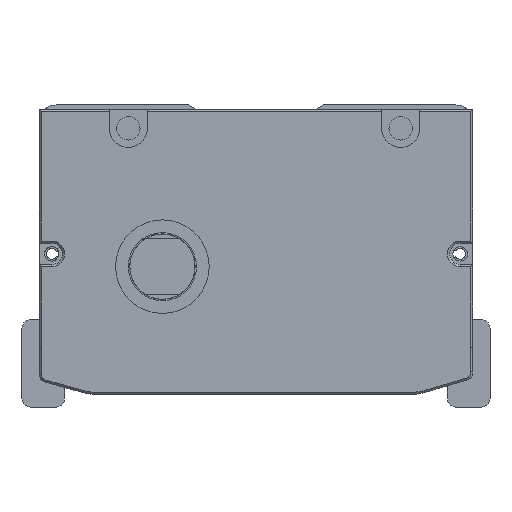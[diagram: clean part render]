
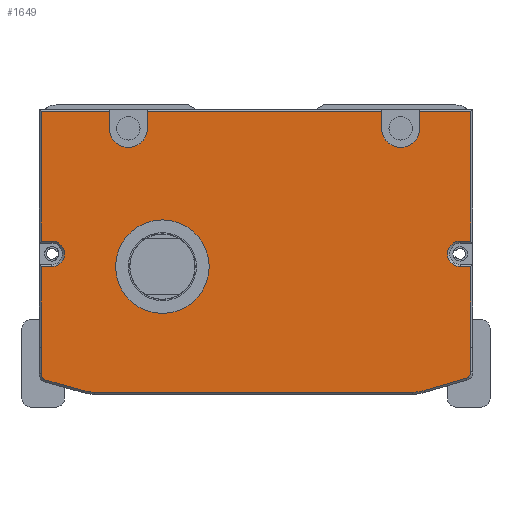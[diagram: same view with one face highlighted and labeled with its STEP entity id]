
A CAD part, front view. The second image highlights one B-rep face of the part: STEP entity #1649.
In plain terms, the highlighted planar face has unit normal (0, -1, 0).
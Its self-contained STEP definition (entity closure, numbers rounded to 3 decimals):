
#986=FACE_BOUND('',#3495,.T.);
#987=FACE_BOUND('',#3496,.T.);
#1649=ADVANCED_FACE('',(#986,#987),#2342,.F.);
#2342=PLANE('',#14314);
#3495=EDGE_LOOP('',(#6323));
#3496=EDGE_LOOP('',(#6324,#6325,#6326,#6327,#6328,#6329,#6330,#6331,#6332,
#6333,#6334,#6335,#6336,#6337,#6338,#6339,#6340,#6341,#6342,#6343,#6344,
#6345,#6346,#6347,#6348,#6349,#6350,#6351));
#4453=CIRCLE('',#14225,3.);
#4456=CIRCLE('',#14233,3.);
#4459=CIRCLE('',#14245,1.5);
#4461=CIRCLE('',#14249,9.5);
#4463=CIRCLE('',#14253,9.5);
#4465=CIRCLE('',#14257,1.5);
#4470=CIRCLE('',#14272,4.5);
#4474=CIRCLE('',#14278,4.5);
#4475=CIRCLE('',#14287,11.);
#6323=ORIENTED_EDGE('',*,*,#10764,.F.);
#6324=ORIENTED_EDGE('',*,*,#10658,.T.);
#6325=ORIENTED_EDGE('',*,*,#10554,.T.);
#6326=ORIENTED_EDGE('',*,*,#10745,.T.);
#6327=ORIENTED_EDGE('',*,*,#10558,.T.);
#6328=ORIENTED_EDGE('',*,*,#10793,.T.);
#6329=ORIENTED_EDGE('',*,*,#10564,.T.);
#6330=ORIENTED_EDGE('',*,*,#10741,.T.);
#6331=ORIENTED_EDGE('',*,*,#10568,.T.);
#6332=ORIENTED_EDGE('',*,*,#10794,.T.);
#6333=ORIENTED_EDGE('',*,*,#10662,.T.);
#6334=ORIENTED_EDGE('',*,*,#10668,.T.);
#6335=ORIENTED_EDGE('',*,*,#10671,.T.);
#6336=ORIENTED_EDGE('',*,*,#10674,.T.);
#6337=ORIENTED_EDGE('',*,*,#10676,.T.);
#6338=ORIENTED_EDGE('',*,*,#10706,.T.);
#6339=ORIENTED_EDGE('',*,*,#10710,.T.);
#6340=ORIENTED_EDGE('',*,*,#10713,.T.);
#6341=ORIENTED_EDGE('',*,*,#10716,.T.);
#6342=ORIENTED_EDGE('',*,*,#10719,.T.);
#6343=ORIENTED_EDGE('',*,*,#10722,.T.);
#6344=ORIENTED_EDGE('',*,*,#10725,.T.);
#6345=ORIENTED_EDGE('',*,*,#10727,.T.);
#6346=ORIENTED_EDGE('',*,*,#10704,.T.);
#6347=ORIENTED_EDGE('',*,*,#10694,.T.);
#6348=ORIENTED_EDGE('',*,*,#10691,.T.);
#6349=ORIENTED_EDGE('',*,*,#10688,.T.);
#6350=ORIENTED_EDGE('',*,*,#10685,.T.);
#6351=ORIENTED_EDGE('',*,*,#10680,.T.);
#9125=VERTEX_POINT('',#21001);
#9126=VERTEX_POINT('',#21003);
#9129=VERTEX_POINT('',#21010);
#9130=VERTEX_POINT('',#21012);
#9135=VERTEX_POINT('',#21023);
#9136=VERTEX_POINT('',#21025);
#9139=VERTEX_POINT('',#21032);
#9140=VERTEX_POINT('',#21034);
#9198=VERTEX_POINT('',#21220);
#9201=VERTEX_POINT('',#21228);
#9202=VERTEX_POINT('',#21229);
#9207=VERTEX_POINT('',#21240);
#9209=VERTEX_POINT('',#21246);
#9210=VERTEX_POINT('',#21251);
#9212=VERTEX_POINT('',#21257);
#9215=VERTEX_POINT('',#21265);
#9217=VERTEX_POINT('',#21271);
#9219=VERTEX_POINT('',#21277);
#9221=VERTEX_POINT('',#21283);
#9223=VERTEX_POINT('',#21289);
#9230=VERTEX_POINT('',#21313);
#9231=VERTEX_POINT('',#21317);
#9234=VERTEX_POINT('',#21324);
#9236=VERTEX_POINT('',#21330);
#9238=VERTEX_POINT('',#21336);
#9240=VERTEX_POINT('',#21342);
#9242=VERTEX_POINT('',#21348);
#9244=VERTEX_POINT('',#21354);
#9256=VERTEX_POINT('',#21427);
#10554=EDGE_CURVE('',#9126,#9125,#12195,.T.);
#10558=EDGE_CURVE('',#9130,#9129,#12199,.T.);
#10564=EDGE_CURVE('',#9136,#9135,#12205,.T.);
#10568=EDGE_CURVE('',#9140,#9139,#12209,.T.);
#10658=EDGE_CURVE('',#9198,#9126,#12282,.T.);
#10662=EDGE_CURVE('',#9201,#9202,#12286,.T.);
#10668=EDGE_CURVE('',#9202,#9207,#12292,.T.);
#10671=EDGE_CURVE('',#9207,#9209,#4453,.T.);
#10674=EDGE_CURVE('',#9209,#9210,#12296,.T.);
#10676=EDGE_CURVE('',#9210,#9212,#12298,.T.);
#10680=EDGE_CURVE('',#9215,#9198,#12302,.T.);
#10685=EDGE_CURVE('',#9217,#9215,#12307,.T.);
#10688=EDGE_CURVE('',#9219,#9217,#4456,.T.);
#10691=EDGE_CURVE('',#9221,#9219,#12311,.T.);
#10694=EDGE_CURVE('',#9223,#9221,#12314,.T.);
#10704=EDGE_CURVE('',#9230,#9223,#12322,.T.);
#10706=EDGE_CURVE('',#9212,#9231,#12324,.T.);
#10710=EDGE_CURVE('',#9231,#9234,#4459,.T.);
#10713=EDGE_CURVE('',#9234,#9236,#12329,.T.);
#10716=EDGE_CURVE('',#9236,#9238,#4461,.T.);
#10719=EDGE_CURVE('',#9238,#9240,#12333,.T.);
#10722=EDGE_CURVE('',#9240,#9242,#4463,.T.);
#10725=EDGE_CURVE('',#9242,#9244,#12337,.T.);
#10727=EDGE_CURVE('',#9244,#9230,#4465,.T.);
#10741=EDGE_CURVE('',#9135,#9140,#4470,.T.);
#10745=EDGE_CURVE('',#9125,#9130,#4474,.T.);
#10764=EDGE_CURVE('',#9256,#9256,#4475,.T.);
#10793=EDGE_CURVE('',#9129,#9136,#12388,.T.);
#10794=EDGE_CURVE('',#9139,#9201,#12389,.T.);
#12195=LINE('',#21002,#13131);
#12199=LINE('',#21011,#13135);
#12205=LINE('',#21024,#13141);
#12209=LINE('',#21033,#13145);
#12282=LINE('',#21219,#13218);
#12286=LINE('',#21227,#13222);
#12292=LINE('',#21241,#13228);
#12296=LINE('',#21253,#13232);
#12298=LINE('',#21256,#13234);
#12302=LINE('',#21264,#13238);
#12307=LINE('',#21274,#13243);
#12311=LINE('',#21286,#13247);
#12314=LINE('',#21292,#13250);
#12322=LINE('',#21312,#13258);
#12324=LINE('',#21316,#13260);
#12329=LINE('',#21331,#13265);
#12333=LINE('',#21343,#13269);
#12337=LINE('',#21355,#13273);
#12388=LINE('',#21489,#13324);
#12389=LINE('',#21490,#13325);
#13131=VECTOR('',#16387,1.);
#13135=VECTOR('',#16393,1.);
#13141=VECTOR('',#16401,1.);
#13145=VECTOR('',#16407,1.);
#13218=VECTOR('',#16574,1.);
#13222=VECTOR('',#16580,1.);
#13228=VECTOR('',#16588,1.);
#13232=VECTOR('',#16600,1.);
#13234=VECTOR('',#16604,1.);
#13238=VECTOR('',#16610,1.);
#13243=VECTOR('',#16617,1.);
#13247=VECTOR('',#16629,1.);
#13250=VECTOR('',#16634,1.);
#13258=VECTOR('',#16656,1.);
#13260=VECTOR('',#16660,1.);
#13265=VECTOR('',#16673,1.);
#13269=VECTOR('',#16685,1.);
#13273=VECTOR('',#16697,1.);
#13324=VECTOR('',#16864,1.);
#13325=VECTOR('',#16865,1.);
#14225=AXIS2_PLACEMENT_3D('',#21247,#16593,#16594);
#14233=AXIS2_PLACEMENT_3D('',#21280,#16623,#16624);
#14245=AXIS2_PLACEMENT_3D('',#21325,#16666,#16667);
#14249=AXIS2_PLACEMENT_3D('',#21337,#16678,#16679);
#14253=AXIS2_PLACEMENT_3D('',#21349,#16690,#16691);
#14257=AXIS2_PLACEMENT_3D('',#21358,#16701,#16702);
#14272=AXIS2_PLACEMENT_3D('',#21384,#16740,#16741);
#14278=AXIS2_PLACEMENT_3D('',#21392,#16752,#16753);
#14287=AXIS2_PLACEMENT_3D('',#21426,#16788,#16789);
#14314=AXIS2_PLACEMENT_3D('',#21491,#16866,#16867);
#16387=DIRECTION('',(0.,0.,-1.));
#16393=DIRECTION('',(0.,0.,1.));
#16401=DIRECTION('',(0.,0.,-1.));
#16407=DIRECTION('',(0.,0.,1.));
#16574=DIRECTION('',(-1.,0.,0.));
#16580=DIRECTION('',(0.,0.,-1.));
#16588=DIRECTION('',(1.,0.,0.));
#16593=DIRECTION('',(0.,1.,0.));
#16594=DIRECTION('',(0.,0.,1.));
#16600=DIRECTION('',(-1.,0.,0.));
#16604=DIRECTION('',(0.,0.,-1.));
#16610=DIRECTION('',(0.,0.,1.));
#16617=DIRECTION('',(1.,0.,0.));
#16623=DIRECTION('',(0.,1.,0.));
#16624=DIRECTION('',(0.,0.,1.));
#16629=DIRECTION('',(-1.,0.,0.));
#16634=DIRECTION('',(0.,0.,1.));
#16656=DIRECTION('',(0.,0.,1.));
#16660=DIRECTION('',(0.,0.,-1.));
#16666=DIRECTION('',(0.,-1.,0.));
#16667=DIRECTION('',(0.,0.,1.));
#16673=DIRECTION('',(0.963,0.,-0.269));
#16678=DIRECTION('',(0.,-1.,0.));
#16679=DIRECTION('',(0.,0.,1.));
#16685=DIRECTION('',(1.,0.,0.));
#16690=DIRECTION('',(0.,-1.,0.));
#16691=DIRECTION('',(0.,0.,1.));
#16697=DIRECTION('',(0.959,0.,0.282));
#16701=DIRECTION('',(0.,-1.,0.));
#16702=DIRECTION('',(0.,0.,1.));
#16740=DIRECTION('',(0.,1.,0.));
#16741=DIRECTION('',(0.,0.,1.));
#16752=DIRECTION('',(0.,1.,0.));
#16753=DIRECTION('',(0.,0.,1.));
#16788=DIRECTION('',(0.,-1.,0.));
#16789=DIRECTION('',(0.,0.,1.));
#16864=DIRECTION('',(-1.,0.,0.));
#16865=DIRECTION('',(-1.,0.,0.));
#16866=DIRECTION('',(0.,1.,0.));
#16867=DIRECTION('',(1.,0.,0.));
#21001=CARTESIAN_POINT('',(35.308,42.5,-5.5));
#21002=CARTESIAN_POINT('',(35.308,42.5,-1.));
#21003=CARTESIAN_POINT('',(35.308,42.5,-1.5));
#21010=CARTESIAN_POINT('',(26.308,42.5,-1.5));
#21011=CARTESIAN_POINT('',(26.308,42.5,-1.));
#21012=CARTESIAN_POINT('',(26.308,42.5,-5.5));
#21023=CARTESIAN_POINT('',(-28.692,42.5,-5.5));
#21024=CARTESIAN_POINT('',(-28.692,42.5,-1.));
#21025=CARTESIAN_POINT('',(-28.692,42.5,-1.5));
#21032=CARTESIAN_POINT('',(-37.692,42.5,-1.5));
#21033=CARTESIAN_POINT('',(-37.692,42.5,-1.));
#21034=CARTESIAN_POINT('',(-37.692,42.5,-5.5));
#21219=CARTESIAN_POINT('',(-53.692,42.5,-1.5));
#21220=CARTESIAN_POINT('',(47.308,42.5,-1.5));
#21227=CARTESIAN_POINT('',(-53.692,42.5,-32.5));
#21228=CARTESIAN_POINT('',(-53.692,42.5,-1.5));
#21229=CARTESIAN_POINT('',(-53.692,42.5,-32.));
#21240=CARTESIAN_POINT('',(-51.192,42.5,-32.));
#21241=CARTESIAN_POINT('',(-3.192,42.5,-32.));
#21246=CARTESIAN_POINT('',(-51.192,42.5,-38.));
#21247=CARTESIAN_POINT('',(-51.192,42.5,-35.));
#21251=CARTESIAN_POINT('',(-53.692,42.5,-38.));
#21253=CARTESIAN_POINT('',(-3.192,42.5,-38.));
#21256=CARTESIAN_POINT('',(-53.692,42.5,-57.));
#21257=CARTESIAN_POINT('',(-53.692,42.5,-57.));
#21264=CARTESIAN_POINT('',(47.308,42.5,-1.5));
#21265=CARTESIAN_POINT('',(47.308,42.5,-32.));
#21271=CARTESIAN_POINT('',(44.808,42.5,-32.));
#21274=CARTESIAN_POINT('',(-3.192,42.5,-32.));
#21277=CARTESIAN_POINT('',(44.808,42.5,-38.));
#21280=CARTESIAN_POINT('',(44.808,42.5,-35.));
#21283=CARTESIAN_POINT('',(47.308,42.5,-38.));
#21286=CARTESIAN_POINT('',(-3.192,42.5,-38.));
#21289=CARTESIAN_POINT('',(47.308,42.5,-57.));
#21292=CARTESIAN_POINT('',(47.308,42.5,-37.5));
#21312=CARTESIAN_POINT('',(47.308,42.5,-37.5));
#21313=CARTESIAN_POINT('',(47.308,42.5,-62.758));
#21316=CARTESIAN_POINT('',(-53.692,42.5,-59.712));
#21317=CARTESIAN_POINT('',(-53.692,42.5,-63.212));
#21324=CARTESIAN_POINT('',(-52.596,42.5,-64.657));
#21325=CARTESIAN_POINT('',(-52.192,42.5,-63.212));
#21330=CARTESIAN_POINT('',(-43.674,42.5,-67.15));
#21331=CARTESIAN_POINT('',(-43.674,42.5,-67.15));
#21336=CARTESIAN_POINT('',(-41.118,42.5,-67.5));
#21337=CARTESIAN_POINT('',(-41.118,42.5,-58.));
#21342=CARTESIAN_POINT('',(33.631,42.5,-67.5));
#21343=CARTESIAN_POINT('',(33.631,42.5,-67.5));
#21348=CARTESIAN_POINT('',(36.312,42.5,-67.114));
#21349=CARTESIAN_POINT('',(33.631,42.5,-58.));
#21354=CARTESIAN_POINT('',(46.231,42.5,-64.197));
#21355=CARTESIAN_POINT('',(46.231,42.5,-64.197));
#21358=CARTESIAN_POINT('',(45.808,42.5,-62.758));
#21384=CARTESIAN_POINT('',(-33.192,42.5,-5.5));
#21392=CARTESIAN_POINT('',(30.808,42.5,-5.5));
#21426=CARTESIAN_POINT('',(-25.192,42.5,-38.));
#21427=CARTESIAN_POINT('',(-25.192,42.5,-27.));
#21489=CARTESIAN_POINT('',(-53.692,42.5,-1.5));
#21490=CARTESIAN_POINT('',(-53.692,42.5,-1.5));
#21491=CARTESIAN_POINT('',(-3.192,42.5,-1.));
